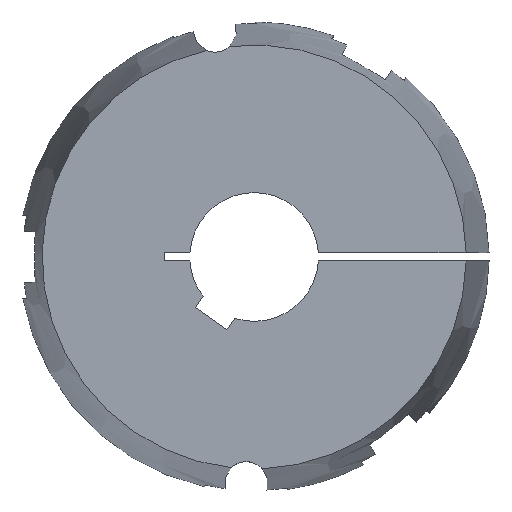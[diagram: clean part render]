
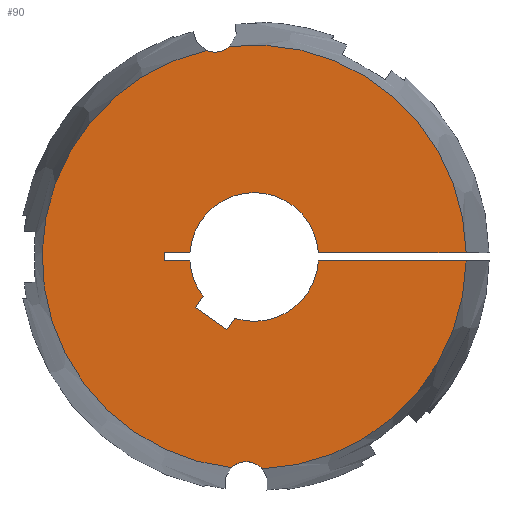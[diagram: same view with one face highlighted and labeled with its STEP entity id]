
A CAD part, left-side view. The second image highlights one B-rep face of the part: STEP entity #90.
In plain terms, the highlighted planar face has unit normal (-1, 0, 0).
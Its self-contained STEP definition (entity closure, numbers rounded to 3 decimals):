
#90 = ADVANCED_FACE( '', ( #140 ), #141, .F. );
#140 = FACE_OUTER_BOUND( '', #208, .T. );
#141 = PLANE( '', #209 );
#208 = EDGE_LOOP( '', ( #369, #370, #371, #372, #373, #374, #375, #376, #377, #378, #379, #380, #381, #382, #383, #384 ) );
#209 = AXIS2_PLACEMENT_3D( '', #385, #386, #387 );
#369 = ORIENTED_EDGE( '', *, *, #548, .F. );
#370 = ORIENTED_EDGE( '', *, *, #601, .F. );
#371 = ORIENTED_EDGE( '', *, *, #570, .T. );
#372 = ORIENTED_EDGE( '', *, *, #583, .T. );
#373 = ORIENTED_EDGE( '', *, *, #581, .T. );
#374 = ORIENTED_EDGE( '', *, *, #578, .T. );
#375 = ORIENTED_EDGE( '', *, *, #587, .T. );
#376 = ORIENTED_EDGE( '', *, *, #602, .T. );
#377 = ORIENTED_EDGE( '', *, *, #603, .T. );
#378 = ORIENTED_EDGE( '', *, *, #604, .T. );
#379 = ORIENTED_EDGE( '', *, *, #605, .T. );
#380 = ORIENTED_EDGE( '', *, *, #606, .T. );
#381 = ORIENTED_EDGE( '', *, *, #572, .T. );
#382 = ORIENTED_EDGE( '', *, *, #607, .F. );
#383 = ORIENTED_EDGE( '', *, *, #551, .F. );
#384 = ORIENTED_EDGE( '', *, *, #608, .F. );
#385 = CARTESIAN_POINT( '', ( -102., 0., 0. ) );
#386 = DIRECTION( '', ( 1., 0., 0. ) );
#387 = DIRECTION( '', ( 0., 1., 0. ) );
#548 = EDGE_CURVE( '', #649, #651, #652, .F. );
#551 = EDGE_CURVE( '', #655, #657, #658, .F. );
#570 = EDGE_CURVE( '', #693, #691, #694, .T. );
#572 = EDGE_CURVE( '', #696, #697, #698, .T. );
#578 = EDGE_CURVE( '', #709, #707, #710, .T. );
#581 = EDGE_CURVE( '', #714, #709, #715, .T. );
#583 = EDGE_CURVE( '', #691, #714, #717, .T. );
#587 = EDGE_CURVE( '', #707, #721, #723, .T. );
#601 = EDGE_CURVE( '', #693, #649, #745, .T. );
#602 = EDGE_CURVE( '', #721, #746, #747, .T. );
#603 = EDGE_CURVE( '', #746, #748, #749, .T. );
#604 = EDGE_CURVE( '', #748, #750, #751, .T. );
#605 = EDGE_CURVE( '', #750, #752, #753, .T. );
#606 = EDGE_CURVE( '', #752, #696, #754, .T. );
#607 = EDGE_CURVE( '', #657, #697, #755, .T. );
#608 = EDGE_CURVE( '', #651, #655, #756, .T. );
#649 = VERTEX_POINT( '', #815 );
#651 = VERTEX_POINT( '', #828 );
#652 = CIRCLE( '', #829, 6.75 );
#655 = VERTEX_POINT( '', #843 );
#657 = VERTEX_POINT( '', #856 );
#658 = CIRCLE( '', #857, 6.75 );
#691 = VERTEX_POINT( '', #924 );
#693 = VERTEX_POINT( '', #927 );
#694 = LINE( '', #928, #929 );
#696 = VERTEX_POINT( '', #937 );
#697 = VERTEX_POINT( '', #938 );
#698 = LINE( '', #939, #940 );
#707 = VERTEX_POINT( '', #958 );
#709 = VERTEX_POINT( '', #961 );
#710 = LINE( '', #962, #963 );
#714 = VERTEX_POINT( '', #969 );
#715 = LINE( '', #970, #971 );
#717 = CIRCLE( '', #974, 20. );
#721 = VERTEX_POINT( '', #979 );
#723 = LINE( '', #982, #983 );
#745 = CIRCLE( '', #1008, 65.867 );
#746 = VERTEX_POINT( '', #1009 );
#747 = CIRCLE( '', #1010, 20. );
#748 = VERTEX_POINT( '', #1011 );
#749 = LINE( '', #1012, #1013 );
#750 = VERTEX_POINT( '', #1014 );
#751 = LINE( '', #1015, #1016 );
#752 = VERTEX_POINT( '', #1017 );
#753 = LINE( '', #1018, #1019 );
#754 = CIRCLE( '', #1020, 20. );
#755 = CIRCLE( '', #1021, 65.867 );
#756 = CIRCLE( '', #1022, 65.867 );
#815 = CARTESIAN_POINT( '', ( -102., -2.538, -65.819 ) );
#828 = CARTESIAN_POINT( '', ( -102., 7.121, -65.481 ) );
#829 = AXIS2_PLACEMENT_3D( '', #1188, #1189, #1190 );
#843 = CARTESIAN_POINT( '', ( -102., 14.891, 64.162 ) );
#856 = CARTESIAN_POINT( '', ( -102., 7.611, 65.426 ) );
#857 = AXIS2_PLACEMENT_3D( '', #1191, #1192, #1193 );
#924 = CARTESIAN_POINT( '', ( -102., -19.961, -1.25 ) );
#927 = CARTESIAN_POINT( '', ( -102., -65.856, -1.25 ) );
#928 = CARTESIAN_POINT( '', ( -102., -73., -1.25 ) );
#929 = VECTOR( '', #1223, 1000. );
#937 = CARTESIAN_POINT( '', ( -102., -19.961, 1.25 ) );
#938 = CARTESIAN_POINT( '', ( -102., -65.856, 1.25 ) );
#939 = CARTESIAN_POINT( '', ( -102., 0., 1.25 ) );
#940 = VECTOR( '', #1224, 1000. );
#958 = CARTESIAN_POINT( '', ( -102., 18.279, -15.645 ) );
#961 = CARTESIAN_POINT( '', ( -102., 8.449, -22.528 ) );
#962 = CARTESIAN_POINT( '', ( -102., 8.449, -22.528 ) );
#963 = VECTOR( '', #1229, 1000. );
#969 = CARTESIAN_POINT( '', ( -102., 6.028, -19.07 ) );
#970 = CARTESIAN_POINT( '', ( -102., 6.028, -19.07 ) );
#971 = VECTOR( '', #1232, 1000. );
#974 = AXIS2_PLACEMENT_3D( '', #1234, #1235, #1236 );
#979 = CARTESIAN_POINT( '', ( -102., 15.858, -12.187 ) );
#982 = CARTESIAN_POINT( '', ( -102., 18.279, -15.645 ) );
#983 = VECTOR( '', #1242, 1000. );
#1008 = AXIS2_PLACEMENT_3D( '', #1276, #1277, #1278 );
#1009 = CARTESIAN_POINT( '', ( -102., 19.961, -1.25 ) );
#1010 = AXIS2_PLACEMENT_3D( '', #1279, #1280, #1281 );
#1011 = CARTESIAN_POINT( '', ( -102., 28., -1.25 ) );
#1012 = CARTESIAN_POINT( '', ( -102., 0., -1.25 ) );
#1013 = VECTOR( '', #1282, 1000. );
#1014 = CARTESIAN_POINT( '', ( -102., 28., 1.25 ) );
#1015 = CARTESIAN_POINT( '', ( -102., 28., -1.25 ) );
#1016 = VECTOR( '', #1283, 1000. );
#1017 = CARTESIAN_POINT( '', ( -102., 19.961, 1.25 ) );
#1018 = CARTESIAN_POINT( '', ( -102., 28., 1.25 ) );
#1019 = VECTOR( '', #1284, 1000. );
#1020 = AXIS2_PLACEMENT_3D( '', #1285, #1286, #1287 );
#1021 = AXIS2_PLACEMENT_3D( '', #1288, #1289, #1290 );
#1022 = AXIS2_PLACEMENT_3D( '', #1291, #1292, #1293 );
#1188 = CARTESIAN_POINT( '', ( -102., 2.456, -70.36 ) );
#1189 = DIRECTION( '', ( 1., 0., 0. ) );
#1190 = DIRECTION( '', ( 0., 1., 0. ) );
#1191 = CARTESIAN_POINT( '', ( -102., 12.218, 70.36 ) );
#1192 = DIRECTION( '', ( 1., 0., 0. ) );
#1193 = DIRECTION( '', ( 0., 1., 0. ) );
#1223 = DIRECTION( '', ( 0., 1., 0. ) );
#1224 = DIRECTION( '', ( 0., -1., 0. ) );
#1229 = DIRECTION( '', ( 0., 0.819, 0.574 ) );
#1232 = DIRECTION( '', ( 0., 0.574, -0.819 ) );
#1234 = CARTESIAN_POINT( '', ( -102., 0., 0. ) );
#1235 = DIRECTION( '', ( 1., 0., 0. ) );
#1236 = DIRECTION( '', ( 0., 0., -1. ) );
#1242 = DIRECTION( '', ( 0., -0.574, 0.819 ) );
#1276 = CARTESIAN_POINT( '', ( -102., 0., 0. ) );
#1277 = DIRECTION( '', ( 1., 0., 0. ) );
#1278 = DIRECTION( '', ( 0., 1., 0. ) );
#1279 = CARTESIAN_POINT( '', ( -102., 0., 0. ) );
#1280 = DIRECTION( '', ( 1., 0., 0. ) );
#1281 = DIRECTION( '', ( 0., 0., -1. ) );
#1282 = DIRECTION( '', ( 0., 1., 0. ) );
#1283 = DIRECTION( '', ( 0., 0., 1. ) );
#1284 = DIRECTION( '', ( 0., -1., 0. ) );
#1285 = CARTESIAN_POINT( '', ( -102., 0., 0. ) );
#1286 = DIRECTION( '', ( 1., 0., 0. ) );
#1287 = DIRECTION( '', ( 0., 0., -1. ) );
#1288 = CARTESIAN_POINT( '', ( -102., 0., 0. ) );
#1289 = DIRECTION( '', ( 1., 0., 0. ) );
#1290 = DIRECTION( '', ( 0., 1., 0. ) );
#1291 = CARTESIAN_POINT( '', ( -102., 0., 0. ) );
#1292 = DIRECTION( '', ( 1., 0., 0. ) );
#1293 = DIRECTION( '', ( 0., 1., 0. ) );
